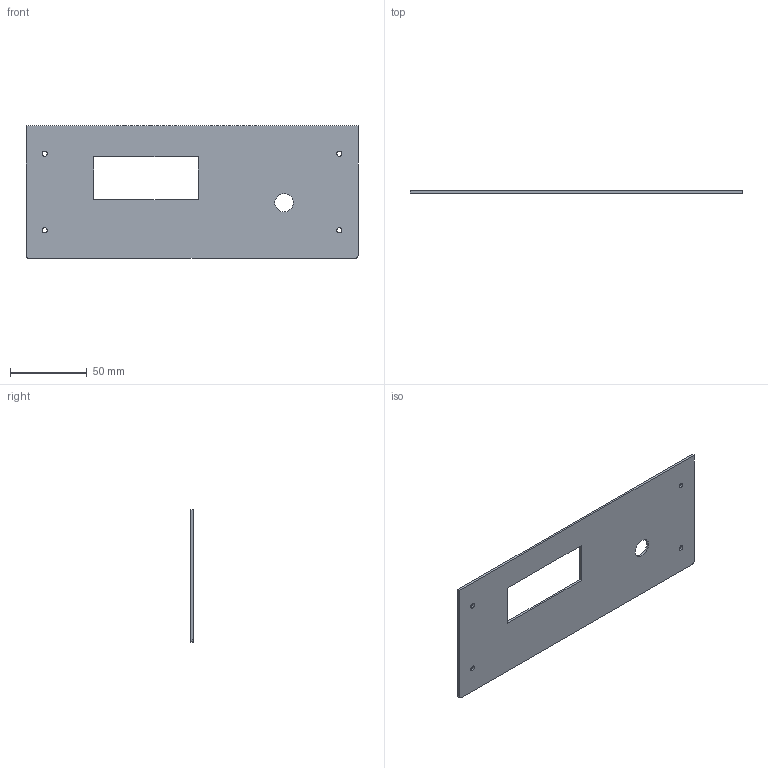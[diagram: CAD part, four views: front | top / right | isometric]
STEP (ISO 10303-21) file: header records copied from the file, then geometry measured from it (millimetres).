
FILE_DESCRIPTION(('Open CASCADE Model'),'2;1');
FILE_NAME('Open CASCADE Shape Model','2026-10-28T07:21:37',('Author'),( 'Open CASCADE'),'Open CASCADE STEP processor 7.8','Open CASCADE 7.8' ,'Unknown');
FILE_SCHEMA(('AUTOMOTIVE_DESIGN { 1 0 10303 214 1 1 1 1 }'));
Length unit declared in the file: millimetre
Products named in the file (1): Open CASCADE STEP translator 7.8 5
Bounding box: 216.4 x 1.5 x 86.4 mm (x, y, z)
Volume: 24963.5 mm3; surface area: 34599.5 mm2
Topology: 1 solids, 1 shells, 17 faces, 45 edges, 30 vertices
Faces by surface type: plane 10, cylinder 7
Full cylindrical faces by diameter (mm): 3.4 x4, 12 x1
Entity records: 1166 total; most frequent: CARTESIAN_POINT 259, DIRECTION 159, LINE 91, VECTOR 91, ORIENTED_EDGE 90, PCURVE 90, DEFINITIONAL_REPRESENTATION 90, EDGE_CURVE 45
